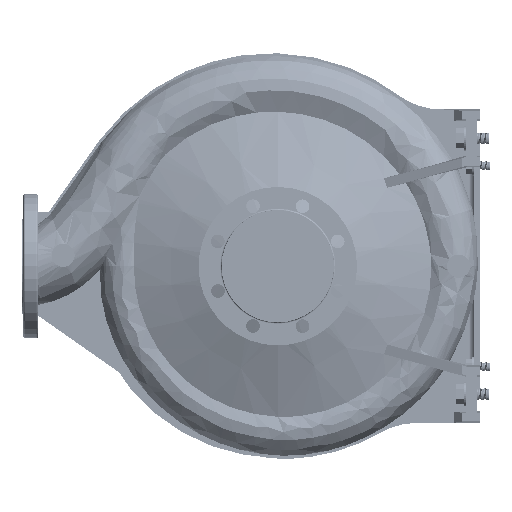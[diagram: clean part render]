
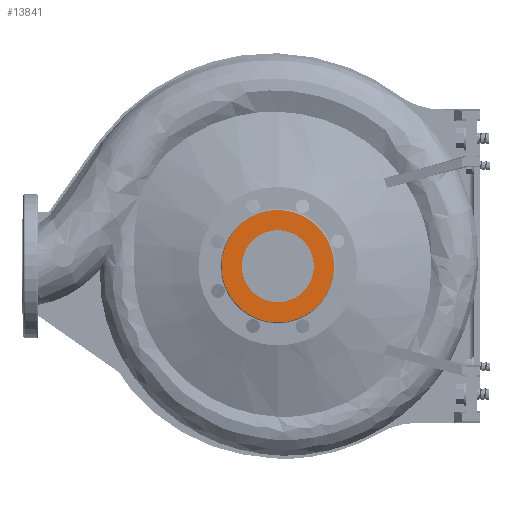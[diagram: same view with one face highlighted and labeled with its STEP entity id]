
A CAD part, left-side view. The second image highlights one B-rep face of the part: STEP entity #13841.
In plain terms, the highlighted planar face has unit normal (-1, 0, 0).
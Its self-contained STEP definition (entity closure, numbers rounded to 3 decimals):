
#13841 = ADVANCED_FACE ( 'NONE', ( #169224, #224378 ), #33592, .F. ) ;
#14743 = DIRECTION ( 'NONE',  ( -1., 0., 0. ) ) ;
#15679 = DIRECTION ( 'NONE',  ( 0., 0., 1. ) ) ;
#29640 = AXIS2_PLACEMENT_3D ( 'NONE', #209250, #14743, #191285 ) ;
#32886 = EDGE_LOOP ( 'NONE', ( #232718, #246936 ) ) ;
#32981 = DIRECTION ( 'NONE',  ( -1., 0., 0. ) ) ;
#33592 = PLANE ( 'NONE',  #137871 ) ;
#34883 = DIRECTION ( 'NONE',  ( -1., 0., 0. ) ) ;
#38728 = CIRCLE ( 'NONE', #214452, 50. ) ;
#58410 = VERTEX_POINT ( 'NONE', #181879 ) ;
#62651 = CARTESIAN_POINT ( 'NONE',  ( -125., 0., -78. ) ) ;
#71992 = DIRECTION ( 'NONE',  ( 1., 0., 0. ) ) ;
#76432 = DIRECTION ( 'NONE',  ( 0., 0., 1. ) ) ;
#78977 = EDGE_CURVE ( 'NONE', #58410, #188261, #238120, .T. ) ;
#85270 = ORIENTED_EDGE ( 'NONE', *, *, #152553, .T. ) ;
#92236 = CARTESIAN_POINT ( 'NONE',  ( -125., 0., 0. ) ) ;
#92427 = CARTESIAN_POINT ( 'NONE',  ( -125., 78., 0. ) ) ;
#97289 = DIRECTION ( 'NONE',  ( 0., 0., 1. ) ) ;
#109575 = VERTEX_POINT ( 'NONE', #169402 ) ;
#123330 = EDGE_LOOP ( 'NONE', ( #246421, #85270 ) ) ;
#126010 = EDGE_CURVE ( 'NONE', #188261, #58410, #38728, .T. ) ;
#128092 = CIRCLE ( 'NONE', #222002, 78. ) ;
#132125 = CARTESIAN_POINT ( 'NONE',  ( -125., 0., 0. ) ) ;
#137871 = AXIS2_PLACEMENT_3D ( 'NONE', #92427, #71992, #150060 ) ;
#150060 = DIRECTION ( 'NONE',  ( 0., 0., -1. ) ) ;
#152553 = EDGE_CURVE ( 'NONE', #206944, #109575, #128092, .T. ) ;
#156261 = CIRCLE ( 'NONE', #205384, 78. ) ;
#169224 = FACE_BOUND ( 'NONE', #32886, .T. ) ;
#169402 = CARTESIAN_POINT ( 'NONE',  ( -125., 0., 78. ) ) ;
#181879 = CARTESIAN_POINT ( 'NONE',  ( -125., 0., 50. ) ) ;
#186431 = EDGE_CURVE ( 'NONE', #109575, #206944, #156261, .T. ) ;
#188261 = VERTEX_POINT ( 'NONE', #214129 ) ;
#191285 = DIRECTION ( 'NONE',  ( 0., 0., 1. ) ) ;
#193247 = DIRECTION ( 'NONE',  ( -1., 0., 0. ) ) ;
#205384 = AXIS2_PLACEMENT_3D ( 'NONE', #92236, #193247, #97289 ) ;
#206944 = VERTEX_POINT ( 'NONE', #62651 ) ;
#209250 = CARTESIAN_POINT ( 'NONE',  ( -125., 0., 0. ) ) ;
#210794 = CARTESIAN_POINT ( 'NONE',  ( -125., 0., 0. ) ) ;
#214129 = CARTESIAN_POINT ( 'NONE',  ( -125., 0., -50. ) ) ;
#214452 = AXIS2_PLACEMENT_3D ( 'NONE', #210794, #32981, #76432 ) ;
#222002 = AXIS2_PLACEMENT_3D ( 'NONE', #132125, #34883, #15679 ) ;
#224378 = FACE_OUTER_BOUND ( 'NONE', #123330, .T. ) ;
#232718 = ORIENTED_EDGE ( 'NONE', *, *, #78977, .F. ) ;
#238120 = CIRCLE ( 'NONE', #29640, 50. ) ;
#246421 = ORIENTED_EDGE ( 'NONE', *, *, #186431, .T. ) ;
#246936 = ORIENTED_EDGE ( 'NONE', *, *, #126010, .F. ) ;
